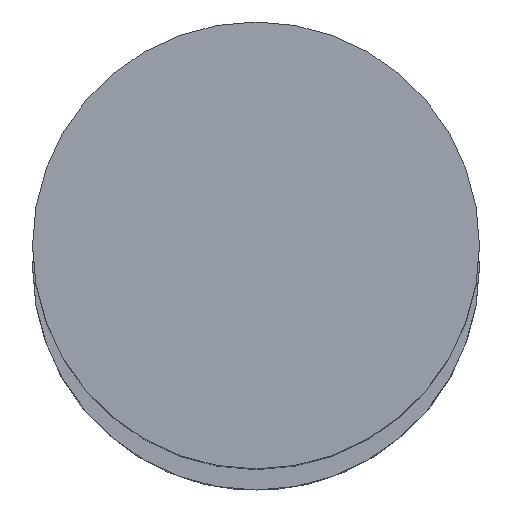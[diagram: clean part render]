
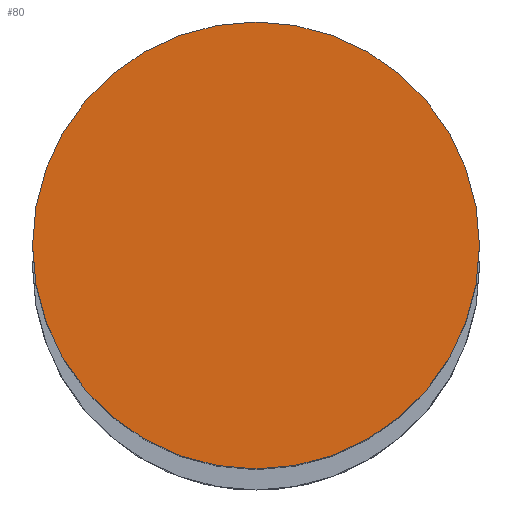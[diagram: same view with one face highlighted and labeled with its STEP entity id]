
A CAD part, top view. The second image highlights one B-rep face of the part: STEP entity #80.
In plain terms, the highlighted planar face has unit normal (0, 0, 1).
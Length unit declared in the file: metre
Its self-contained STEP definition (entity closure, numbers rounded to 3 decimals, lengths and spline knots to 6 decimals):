
#80=ADVANCED_FACE('0:129',(#167),#168,.T.);
#167=FACE_OUTER_BOUND('',#269,.T.);
#168=PLANE('',#270);
#269=EDGE_LOOP('',(#410,#411));
#270=AXIS2_PLACEMENT_3D('',#412,#413,#414);
#410=ORIENTED_EDGE('',*,*,#595,.F.);
#411=ORIENTED_EDGE('',*,*,#585,.F.);
#412=CARTESIAN_POINT('',(0.,0.,0.36));
#413=DIRECTION('',(0.0,0.0,1.0));
#414=DIRECTION('',(1.0,0.0,0.0));
#585=EDGE_CURVE('',#700,#702,#703,.F.);
#595=EDGE_CURVE('',#702,#700,#715,.F.);
#700=VERTEX_POINT('',#849);
#702=VERTEX_POINT('',#852);
#703=CIRCLE('',#853,0.008);
#715=CIRCLE('',#866,0.008);
#849=CARTESIAN_POINT('',(0.00789,0.000133,0.36));
#852=CARTESIAN_POINT('',(-0.00811,0.000133,0.36));
#853=AXIS2_PLACEMENT_3D('',#996,#997,#998);
#866=AXIS2_PLACEMENT_3D('',#1015,#1016,#1017);
#996=CARTESIAN_POINT('',(-0.00011,0.000133,0.36));
#997=DIRECTION('',(0.0,0.0,1.0));
#998=DIRECTION('',(1.0,0.0,0.0));
#1015=CARTESIAN_POINT('',(-0.00011,0.000133,0.36));
#1016=DIRECTION('',(0.0,0.0,1.0));
#1017=DIRECTION('',(1.0,0.0,0.0));
